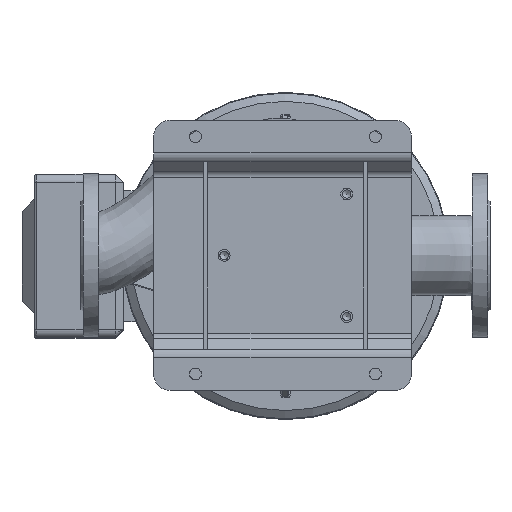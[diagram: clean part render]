
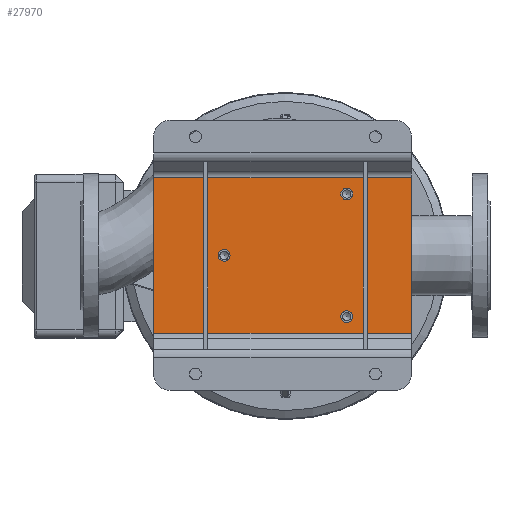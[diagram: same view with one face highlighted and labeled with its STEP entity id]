
A CAD part, top view. The second image highlights one B-rep face of the part: STEP entity #27970.
In plain terms, the highlighted planar face has unit normal (0, 0, 1) as drawn and (0, -1, 0) by its records, which use the part's own axes.
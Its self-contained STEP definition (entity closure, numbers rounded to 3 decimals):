
#624 = EDGE_CURVE ( 'NONE', #57893, #61428, #34874, .T. ) ;
#1189 = EDGE_CURVE ( 'NONE', #30262, #30262, #63089, .T. ) ;
#1231 = VECTOR ( 'NONE', #3348, 1000. ) ;
#3348 = DIRECTION ( 'NONE',  ( -1., 0., 0. ) ) ;
#4096 = ORIENTED_EDGE ( 'NONE', *, *, #36910, .F. ) ;
#5903 = FACE_BOUND ( 'NONE', #20034, .T. ) ;
#6457 = EDGE_CURVE ( 'NONE', #36051, #36051, #42453, .T. ) ;
#9144 = LINE ( 'NONE', #34424, #27560 ) ;
#14115 = AXIS2_PLACEMENT_3D ( 'NONE', #61195, #80206, #73184 ) ;
#14332 = ORIENTED_EDGE ( 'NONE', *, *, #1189, .F. ) ;
#15375 = CARTESIAN_POINT ( 'NONE',  ( 95., -5., -161. ) ) ;
#16521 = ORIENTED_EDGE ( 'NONE', *, *, #55743, .F. ) ;
#20034 = EDGE_LOOP ( 'NONE', ( #71200 ) ) ;
#20266 = DIRECTION ( 'NONE',  ( 0., 0., -1. ) ) ;
#22405 = CARTESIAN_POINT ( 'NONE',  ( -75., -5., 67.75 ) ) ;
#24412 = EDGE_LOOP ( 'NONE', ( #14332 ) ) ;
#25438 = EDGE_LOOP ( 'NONE', ( #4096 ) ) ;
#25745 = ORIENTED_EDGE ( 'NONE', *, *, #42138, .F. ) ;
#27353 = AXIS2_PLACEMENT_3D ( 'NONE', #45552, #45146, #56772 ) ;
#27560 = VECTOR ( 'NONE', #59734, 1000. ) ;
#27970 = ADVANCED_FACE ( 'NONE', ( #38643, #5903, #63542, #62704 ), #31188, .T. ) ;
#28274 = DIRECTION ( 'NONE',  ( 1., 0., 0. ) ) ;
#30262 = VERTEX_POINT ( 'NONE', #22405 ) ;
#31188 = PLANE ( 'NONE',  #53887 ) ;
#34424 = CARTESIAN_POINT ( 'NONE',  ( -95., -5., 154. ) ) ;
#34448 = CARTESIAN_POINT ( 'NONE',  ( -95., -5., -161. ) ) ;
#34874 = LINE ( 'NONE', #41504, #45206 ) ;
#35529 = EDGE_CURVE ( 'NONE', #74527, #43140, #59370, .T. ) ;
#36051 = VERTEX_POINT ( 'NONE', #42277 ) ;
#36910 = EDGE_CURVE ( 'NONE', #63745, #63745, #71040, .T. ) ;
#38643 = FACE_BOUND ( 'NONE', #25438, .T. ) ;
#41504 = CARTESIAN_POINT ( 'NONE',  ( -95., -5., 154. ) ) ;
#41712 = EDGE_LOOP ( 'NONE', ( #16521, #52093, #25745, #52877 ) ) ;
#42138 = EDGE_CURVE ( 'NONE', #43140, #57893, #9144, .T. ) ;
#42277 = CARTESIAN_POINT ( 'NONE',  ( 0., -5., -82.25 ) ) ;
#42453 = CIRCLE ( 'NONE', #51183, 7.25 ) ;
#42766 = CARTESIAN_POINT ( 'NONE',  ( 95., -5., 154. ) ) ;
#43140 = VERTEX_POINT ( 'NONE', #48709 ) ;
#43620 = DIRECTION ( 'NONE',  ( 0., -1., 0. ) ) ;
#45146 = DIRECTION ( 'NONE',  ( 0., -1., 0. ) ) ;
#45206 = VECTOR ( 'NONE', #28274, 1000. ) ;
#45552 = CARTESIAN_POINT ( 'NONE',  ( -75., -5., 75. ) ) ;
#48709 = CARTESIAN_POINT ( 'NONE',  ( -95., -5., -161. ) ) ;
#50279 = DIRECTION ( 'NONE',  ( 0., 0., -1. ) ) ;
#50971 = CARTESIAN_POINT ( 'NONE',  ( 95., -5., 154. ) ) ;
#51183 = AXIS2_PLACEMENT_3D ( 'NONE', #64089, #51251, #52460 ) ;
#51251 = DIRECTION ( 'NONE',  ( 0., -1., 0. ) ) ;
#52093 = ORIENTED_EDGE ( 'NONE', *, *, #624, .F. ) ;
#52460 = DIRECTION ( 'NONE',  ( 0., 0., -1. ) ) ;
#52877 = ORIENTED_EDGE ( 'NONE', *, *, #35529, .F. ) ;
#53887 = AXIS2_PLACEMENT_3D ( 'NONE', #56475, #43620, #50279 ) ;
#55743 = EDGE_CURVE ( 'NONE', #61428, #74527, #63404, .T. ) ;
#56475 = CARTESIAN_POINT ( 'NONE',  ( 0., -5., 0. ) ) ;
#56772 = DIRECTION ( 'NONE',  ( 0., 0., -1. ) ) ;
#57893 = VERTEX_POINT ( 'NONE', #77788 ) ;
#59370 = LINE ( 'NONE', #34448, #1231 ) ;
#59734 = DIRECTION ( 'NONE',  ( 0., 0., 1. ) ) ;
#61195 = CARTESIAN_POINT ( 'NONE',  ( 75., -5., 75. ) ) ;
#61428 = VERTEX_POINT ( 'NONE', #42766 ) ;
#62704 = FACE_OUTER_BOUND ( 'NONE', #41712, .T. ) ;
#63089 = CIRCLE ( 'NONE', #27353, 7.25 ) ;
#63404 = LINE ( 'NONE', #50971, #70308 ) ;
#63542 = FACE_BOUND ( 'NONE', #24412, .T. ) ;
#63745 = VERTEX_POINT ( 'NONE', #64157 ) ;
#64089 = CARTESIAN_POINT ( 'NONE',  ( 0., -5., -75. ) ) ;
#64157 = CARTESIAN_POINT ( 'NONE',  ( 75., -5., 67.75 ) ) ;
#70308 = VECTOR ( 'NONE', #20266, 1000. ) ;
#71040 = CIRCLE ( 'NONE', #14115, 7.25 ) ;
#71200 = ORIENTED_EDGE ( 'NONE', *, *, #6457, .F. ) ;
#73184 = DIRECTION ( 'NONE',  ( 0., 0., -1. ) ) ;
#74527 = VERTEX_POINT ( 'NONE', #15375 ) ;
#77788 = CARTESIAN_POINT ( 'NONE',  ( -95., -5., 154. ) ) ;
#80206 = DIRECTION ( 'NONE',  ( 0., -1., 0. ) ) ;
